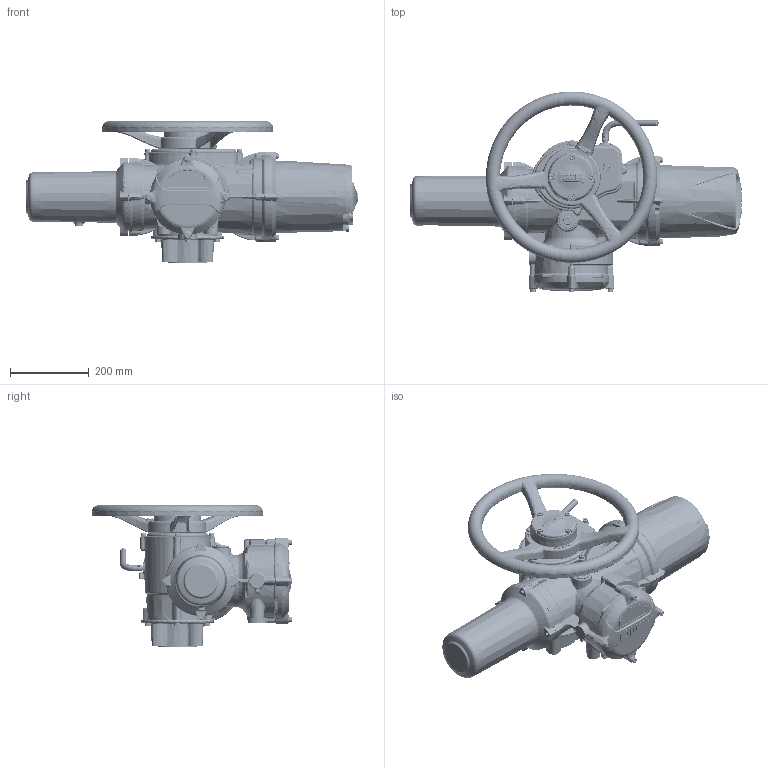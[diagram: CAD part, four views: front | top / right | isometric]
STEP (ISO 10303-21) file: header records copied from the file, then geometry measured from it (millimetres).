
FILE_DESCRIPTION(/* description */ ('Unknown'),/* implementation_level */ '2;1');
FILE_NAME(/* name */ 'IQ3H-2SP-THW-B1-1',/* time_stamp */ '2021-03-29T11:37:33+01:00',/* author */ ('Unknown'),/* organization */ ('Unknown'),/* preprocessor_version */ 'ST-DEVELOPER v16.7',/* originating_system */ 'Solid Edge',/* authorisation */ 'Unknown');
FILE_SCHEMA (('AUTOMOTIVE_DESIGN {1 0 10303 214 3 1 1}'));
Length unit declared in the file: millimetre
Products named in the file (1): IQ3H-2SP-THW-B1-1
Bounding box: 843.5 x 510.12 x 360.74 mm (x, y, z)
Volume: 13522.8 mm3; surface area: 1345753 mm2
Topology: 41 solids, 42 shells, 6046 faces, 15207 edges, 9113 vertices
Faces by surface type: bspline 2341, plane 1665, cylinder 730, torus 594, cone 544, sphere 172
Full cylindrical faces by diameter (mm): 1.152 x1, 3 x8, 3.54 x2, 4 x2, 6 x3, 6.45 x8, 6.47 x8, 6.5 x1, 7 x4, 7.6 x4, 8 x20, 8.1 x1, 8.2 x1, 8.5 x4, 9 x4, 10 x1, 11.78 x1, 13 x12, 13.25 x4, 14 x4, 15.5 x1, 15.84 x1, 16 x4, 24.78 x1, 78 x1, 80 x1, 99.95 x1, 120.155 x1, 126.9 x1, 132.5 x1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
Entity records: 268838 total; most frequent: CARTESIAN_POINT 103974, ORIENTED_EDGE 28820, DIRECTION 20846, EDGE_CURVE 14410, VERTEX_POINT 8887, AXIS2_PLACEMENT_3D 8672, FACE_BOUND 6601, EDGE_LOOP 6580
